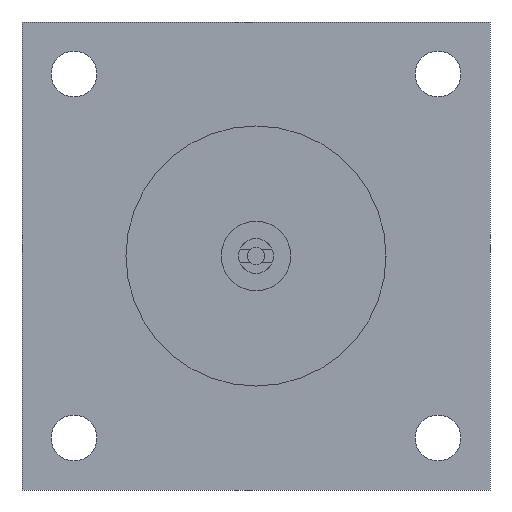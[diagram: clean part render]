
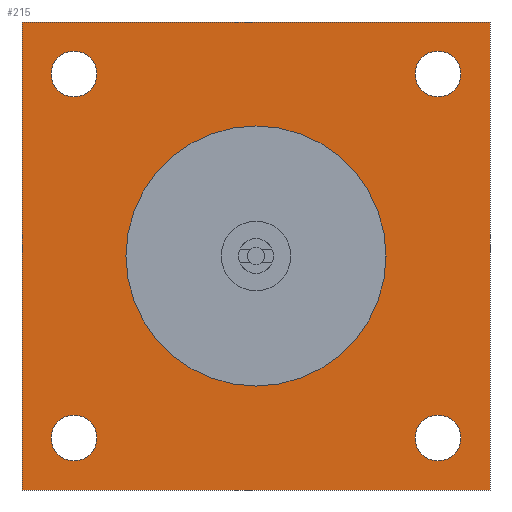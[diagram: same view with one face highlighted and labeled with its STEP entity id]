
A CAD part, left-side view. The second image highlights one B-rep face of the part: STEP entity #215.
In plain terms, the highlighted planar face has unit normal (-1, 0, 0).
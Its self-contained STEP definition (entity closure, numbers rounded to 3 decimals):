
#13 = DIRECTION ( 'NONE',  ( 0., 0., 1. ) ) ;
#16 = DIRECTION ( 'NONE',  ( -1., 0., 0. ) ) ;
#22 = DIRECTION ( 'NONE',  ( 0., 0., 1. ) ) ;
#25 = CARTESIAN_POINT ( 'NONE',  ( -25., 0., -75. ) ) ;
#29 = AXIS2_PLACEMENT_3D ( 'NONE', #1069, #1087, #1098 ) ;
#48 = AXIS2_PLACEMENT_3D ( 'NONE', #754, #632, #642 ) ;
#51 = LINE ( 'NONE', #582, #282 ) ;
#65 = VECTOR ( 'NONE', #960, 1000. ) ;
#69 = FACE_BOUND ( 'NONE', #1223, .T. ) ;
#99 = DIRECTION ( 'NONE',  ( -1., 0., 0. ) ) ;
#112 = CARTESIAN_POINT ( 'NONE',  ( -25., -105., -118.25 ) ) ;
#114 = EDGE_CURVE ( 'NONE', #682, #1035, #1679, .T. ) ;
#118 = VERTEX_POINT ( 'NONE', #1023 ) ;
#121 = PLANE ( 'NONE',  #1345 ) ;
#122 = FACE_OUTER_BOUND ( 'NONE', #603, .T. ) ;
#175 = ORIENTED_EDGE ( 'NONE', *, *, #584, .F. ) ;
#176 = DIRECTION ( 'NONE',  ( 0., 0., -1. ) ) ;
#185 = CARTESIAN_POINT ( 'NONE',  ( -25., 135., -135. ) ) ;
#191 = CIRCLE ( 'NONE', #362, 13.25 ) ;
#195 = ORIENTED_EDGE ( 'NONE', *, *, #1239, .F. ) ;
#196 = CARTESIAN_POINT ( 'NONE',  ( -25., 105., 105. ) ) ;
#215 = ADVANCED_FACE ( 'NONE', ( #817, #1230, #69, #1196, #1582, #122 ), #121, .F. ) ;
#219 = DIRECTION ( 'NONE',  ( -1., 0., 0. ) ) ;
#231 = ORIENTED_EDGE ( 'NONE', *, *, #991, .T. ) ;
#238 = CARTESIAN_POINT ( 'NONE',  ( -25., -105., -105. ) ) ;
#239 = DIRECTION ( 'NONE',  ( 0., 0., 1. ) ) ;
#255 = VERTEX_POINT ( 'NONE', #1650 ) ;
#265 = CARTESIAN_POINT ( 'NONE',  ( -25., -105., -91.75 ) ) ;
#282 = VECTOR ( 'NONE', #871, 1000. ) ;
#338 = AXIS2_PLACEMENT_3D ( 'NONE', #1301, #1776, #13 ) ;
#358 = ORIENTED_EDGE ( 'NONE', *, *, #1362, .F. ) ;
#362 = AXIS2_PLACEMENT_3D ( 'NONE', #539, #484, #500 ) ;
#373 = EDGE_CURVE ( 'NONE', #703, #677, #1770, .T. ) ;
#377 = EDGE_LOOP ( 'NONE', ( #195, #1768 ) ) ;
#397 = LINE ( 'NONE', #1688, #928 ) ;
#418 = CARTESIAN_POINT ( 'NONE',  ( -25., -135., -135. ) ) ;
#429 = DIRECTION ( 'NONE',  ( -1., 0., 0. ) ) ;
#431 = EDGE_LOOP ( 'NONE', ( #674, #696 ) ) ;
#455 = EDGE_LOOP ( 'NONE', ( #175, #938 ) ) ;
#484 = DIRECTION ( 'NONE',  ( -1., 0., 0. ) ) ;
#497 = CIRCLE ( 'NONE', #338, 13.25 ) ;
#500 = DIRECTION ( 'NONE',  ( 0., 0., 1. ) ) ;
#539 = CARTESIAN_POINT ( 'NONE',  ( -25., -105., 105. ) ) ;
#567 = ORIENTED_EDGE ( 'NONE', *, *, #631, .T. ) ;
#582 = CARTESIAN_POINT ( 'NONE',  ( -25., 135., 135. ) ) ;
#584 = EDGE_CURVE ( 'NONE', #1622, #651, #1107, .T. ) ;
#588 = AXIS2_PLACEMENT_3D ( 'NONE', #1638, #1648, #1664 ) ;
#603 = EDGE_LOOP ( 'NONE', ( #818, #567, #231, #810 ) ) ;
#631 = EDGE_CURVE ( 'NONE', #1305, #1471, #1051, .T. ) ;
#632 = DIRECTION ( 'NONE',  ( -1., 0., 0. ) ) ;
#642 = DIRECTION ( 'NONE',  ( 0., 0., 1. ) ) ;
#651 = VERTEX_POINT ( 'NONE', #1682 ) ;
#654 = CARTESIAN_POINT ( 'NONE',  ( -25., 0., 75. ) ) ;
#662 = AXIS2_PLACEMENT_3D ( 'NONE', #980, #16, #22 ) ;
#674 = ORIENTED_EDGE ( 'NONE', *, *, #114, .F. ) ;
#677 = VERTEX_POINT ( 'NONE', #265 ) ;
#682 = VERTEX_POINT ( 'NONE', #25 ) ;
#696 = ORIENTED_EDGE ( 'NONE', *, *, #1543, .F. ) ;
#702 = CIRCLE ( 'NONE', #1640, 13.25 ) ;
#703 = VERTEX_POINT ( 'NONE', #112 ) ;
#735 = AXIS2_PLACEMENT_3D ( 'NONE', #1580, #429, #176 ) ;
#747 = EDGE_CURVE ( 'NONE', #255, #1034, #51, .T. ) ;
#750 = ORIENTED_EDGE ( 'NONE', *, *, #1092, .F. ) ;
#754 = CARTESIAN_POINT ( 'NONE',  ( -25., -105., 105. ) ) ;
#769 = DIRECTION ( 'NONE',  ( 0., 1., 0. ) ) ;
#810 = ORIENTED_EDGE ( 'NONE', *, *, #747, .T. ) ;
#817 = FACE_BOUND ( 'NONE', #431, .T. ) ;
#818 = ORIENTED_EDGE ( 'NONE', *, *, #1482, .T. ) ;
#854 = CIRCLE ( 'NONE', #1175, 75. ) ;
#860 = EDGE_CURVE ( 'NONE', #651, #1622, #1767, .T. ) ;
#871 = DIRECTION ( 'NONE',  ( 0., 0., -1. ) ) ;
#883 = ORIENTED_EDGE ( 'NONE', *, *, #373, .F. ) ;
#928 = VECTOR ( 'NONE', #769, 1000. ) ;
#931 = CARTESIAN_POINT ( 'NONE',  ( -25., 105., -91.75 ) ) ;
#938 = ORIENTED_EDGE ( 'NONE', *, *, #860, .F. ) ;
#960 = DIRECTION ( 'NONE',  ( 0., -1., 0. ) ) ;
#971 = CARTESIAN_POINT ( 'NONE',  ( -25., 105., 118.25 ) ) ;
#980 = CARTESIAN_POINT ( 'NONE',  ( -25., -105., -105. ) ) ;
#991 = EDGE_CURVE ( 'NONE', #1471, #255, #397, .T. ) ;
#1023 = CARTESIAN_POINT ( 'NONE',  ( -25., 105., 91.75 ) ) ;
#1034 = VERTEX_POINT ( 'NONE', #185 ) ;
#1035 = VERTEX_POINT ( 'NONE', #654 ) ;
#1047 = CIRCLE ( 'NONE', #1238, 13.25 ) ;
#1051 = LINE ( 'NONE', #1498, #1373 ) ;
#1059 = EDGE_LOOP ( 'NONE', ( #750, #1552 ) ) ;
#1069 = CARTESIAN_POINT ( 'NONE',  ( -25., 105., -105. ) ) ;
#1087 = DIRECTION ( 'NONE',  ( -1., 0., 0. ) ) ;
#1092 = EDGE_CURVE ( 'NONE', #1474, #1545, #1761, .T. ) ;
#1098 = DIRECTION ( 'NONE',  ( 0., 0., 1. ) ) ;
#1107 = CIRCLE ( 'NONE', #29, 13.25 ) ;
#1175 = AXIS2_PLACEMENT_3D ( 'NONE', #1669, #1658, #1633 ) ;
#1196 = FACE_BOUND ( 'NONE', #377, .T. ) ;
#1213 = VERTEX_POINT ( 'NONE', #971 ) ;
#1220 = CARTESIAN_POINT ( 'NONE',  ( -25., -105., 118.25 ) ) ;
#1223 = EDGE_LOOP ( 'NONE', ( #358, #883 ) ) ;
#1230 = FACE_BOUND ( 'NONE', #1059, .T. ) ;
#1237 = DIRECTION ( 'NONE',  ( 0., 0., 1. ) ) ;
#1238 = AXIS2_PLACEMENT_3D ( 'NONE', #196, #219, #239 ) ;
#1239 = EDGE_CURVE ( 'NONE', #1213, #118, #1047, .T. ) ;
#1260 = CARTESIAN_POINT ( 'NONE',  ( -25., 135., -135. ) ) ;
#1265 = EDGE_CURVE ( 'NONE', #118, #1213, #497, .T. ) ;
#1299 = CARTESIAN_POINT ( 'NONE',  ( -25., 0., 0. ) ) ;
#1301 = CARTESIAN_POINT ( 'NONE',  ( -25., 105., 105. ) ) ;
#1305 = VERTEX_POINT ( 'NONE', #418 ) ;
#1345 = AXIS2_PLACEMENT_3D ( 'NONE', #1299, #1677, #1643 ) ;
#1362 = EDGE_CURVE ( 'NONE', #677, #703, #702, .T. ) ;
#1373 = VECTOR ( 'NONE', #1237, 1000. ) ;
#1471 = VERTEX_POINT ( 'NONE', #1736 ) ;
#1474 = VERTEX_POINT ( 'NONE', #1220 ) ;
#1482 = EDGE_CURVE ( 'NONE', #1034, #1305, #1576, .T. ) ;
#1498 = CARTESIAN_POINT ( 'NONE',  ( -25., -135., 135. ) ) ;
#1501 = DIRECTION ( 'NONE',  ( 0., 0., 1. ) ) ;
#1543 = EDGE_CURVE ( 'NONE', #1035, #682, #854, .T. ) ;
#1545 = VERTEX_POINT ( 'NONE', #1676 ) ;
#1552 = ORIENTED_EDGE ( 'NONE', *, *, #1641, .F. ) ;
#1576 = LINE ( 'NONE', #1260, #65 ) ;
#1580 = CARTESIAN_POINT ( 'NONE',  ( -25., 0., 0. ) ) ;
#1582 = FACE_BOUND ( 'NONE', #455, .T. ) ;
#1622 = VERTEX_POINT ( 'NONE', #931 ) ;
#1633 = DIRECTION ( 'NONE',  ( 0., 0., -1. ) ) ;
#1638 = CARTESIAN_POINT ( 'NONE',  ( -25., 105., -105. ) ) ;
#1640 = AXIS2_PLACEMENT_3D ( 'NONE', #238, #99, #1501 ) ;
#1641 = EDGE_CURVE ( 'NONE', #1545, #1474, #191, .T. ) ;
#1643 = DIRECTION ( 'NONE',  ( 0., 0., -1. ) ) ;
#1648 = DIRECTION ( 'NONE',  ( -1., 0., 0. ) ) ;
#1650 = CARTESIAN_POINT ( 'NONE',  ( -25., 135., 135. ) ) ;
#1658 = DIRECTION ( 'NONE',  ( -1., 0., 0. ) ) ;
#1664 = DIRECTION ( 'NONE',  ( 0., 0., 1. ) ) ;
#1669 = CARTESIAN_POINT ( 'NONE',  ( -25., 0., 0. ) ) ;
#1676 = CARTESIAN_POINT ( 'NONE',  ( -25., -105., 91.75 ) ) ;
#1677 = DIRECTION ( 'NONE',  ( 1., 0., 0. ) ) ;
#1679 = CIRCLE ( 'NONE', #735, 75. ) ;
#1682 = CARTESIAN_POINT ( 'NONE',  ( -25., 105., -118.25 ) ) ;
#1688 = CARTESIAN_POINT ( 'NONE',  ( -25., 135., 135. ) ) ;
#1736 = CARTESIAN_POINT ( 'NONE',  ( -25., -135., 135. ) ) ;
#1761 = CIRCLE ( 'NONE', #48, 13.25 ) ;
#1767 = CIRCLE ( 'NONE', #588, 13.25 ) ;
#1768 = ORIENTED_EDGE ( 'NONE', *, *, #1265, .F. ) ;
#1770 = CIRCLE ( 'NONE', #662, 13.25 ) ;
#1776 = DIRECTION ( 'NONE',  ( -1., 0., 0. ) ) ;
